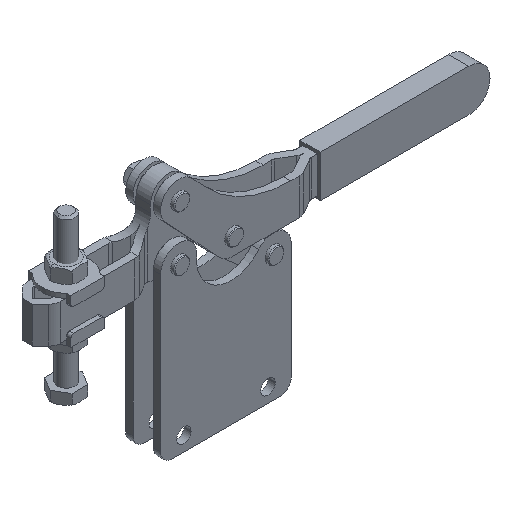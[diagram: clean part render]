
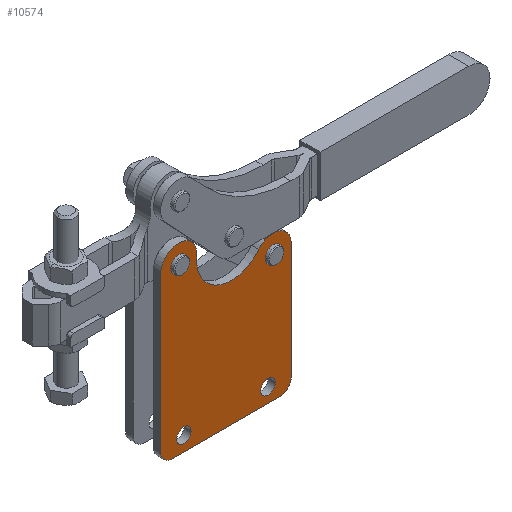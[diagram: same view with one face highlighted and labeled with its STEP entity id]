
A CAD part, isometric view. The second image highlights one B-rep face of the part: STEP entity #10574.
In plain terms, the highlighted planar face has unit normal (0, -1, 0).
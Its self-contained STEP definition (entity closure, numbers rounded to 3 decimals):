
#10467=CARTESIAN_POINT('Axis2P3D Location',(0.,-12.,0.)) ;
#10472=CARTESIAN_POINT('Axis2P3D Location',(101.865,-12.,56.03)) ;
#10476=CARTESIAN_POINT('Cartesian Point',(78.007,-12.,58.64)) ;
#10478=CARTESIAN_POINT('Cartesian Point',(120.747,-12.,41.216)) ;
#10481=CARTESIAN_POINT('Axis2P3D Location',(65.582,-12.,60.)) ;
#10485=CARTESIAN_POINT('Cartesian Point',(53.082,-12.,60.)) ;
#10488=CARTESIAN_POINT('Line Origine',(53.082,-12.,7.)) ;
#10492=CARTESIAN_POINT('Cartesian Point',(53.082,-12.,-46.)) ;
#10495=CARTESIAN_POINT('Axis2P3D Location',(61.082,-12.,-46.)) ;
#10499=CARTESIAN_POINT('Cartesian Point',(61.082,-12.,-54.)) ;
#10502=CARTESIAN_POINT('Line Origine',(98.082,-12.,-54.)) ;
#10506=CARTESIAN_POINT('Cartesian Point',(135.082,-12.,-54.)) ;
#10509=CARTESIAN_POINT('Axis2P3D Location',(135.082,-12.,-46.)) ;
#10513=CARTESIAN_POINT('Cartesian Point',(143.082,-12.,-46.)) ;
#10516=CARTESIAN_POINT('Line Origine',(143.082,-12.,-6.25)) ;
#10520=CARTESIAN_POINT('Cartesian Point',(143.082,-12.,33.5)) ;
#10523=CARTESIAN_POINT('Axis2P3D Location',(130.582,-12.,33.5)) ;
#10538=CARTESIAN_POINT('Axis2P3D Location',(127.082,-12.,-44.)) ;
#10542=CARTESIAN_POINT('Cartesian Point',(132.082,-12.,-44.)) ;
#10544=CARTESIAN_POINT('Cartesian Point',(122.082,-12.,-44.)) ;
#10547=CARTESIAN_POINT('Axis2P3D Location',(127.082,-12.,-44.)) ;
#10556=CARTESIAN_POINT('Axis2P3D Location',(69.082,-12.,-44.)) ;
#10560=CARTESIAN_POINT('Cartesian Point',(74.082,-12.,-44.)) ;
#10562=CARTESIAN_POINT('Cartesian Point',(64.082,-12.,-44.)) ;
#10565=CARTESIAN_POINT('Axis2P3D Location',(69.082,-12.,-44.)) ;
#10468=DIRECTION('Axis2P3D Direction',(0.,1.,0.)) ;
#10469=DIRECTION('Axis2P3D XDirection',(0.,0.,-1.)) ;
#10473=DIRECTION('Axis2P3D Direction',(0.,1.,0.)) ;
#10482=DIRECTION('Axis2P3D Direction',(0.,1.,0.)) ;
#10489=DIRECTION('Vector Direction',(0.,0.,1.)) ;
#10496=DIRECTION('Axis2P3D Direction',(0.,1.,0.)) ;
#10503=DIRECTION('Vector Direction',(1.,0.,0.)) ;
#10510=DIRECTION('Axis2P3D Direction',(0.,1.,0.)) ;
#10517=DIRECTION('Vector Direction',(0.,0.,1.)) ;
#10524=DIRECTION('Axis2P3D Direction',(0.,1.,0.)) ;
#10539=DIRECTION('Axis2P3D Direction',(0.,1.,0.)) ;
#10548=DIRECTION('Axis2P3D Direction',(0.,1.,0.)) ;
#10557=DIRECTION('Axis2P3D Direction',(0.,1.,0.)) ;
#10566=DIRECTION('Axis2P3D Direction',(0.,1.,0.)) ;
#10470=AXIS2_PLACEMENT_3D('Plane Axis2P3D',#10467,#10468,#10469) ;
#10474=AXIS2_PLACEMENT_3D('Circle Axis2P3D',#10472,#10473,$) ;
#10483=AXIS2_PLACEMENT_3D('Circle Axis2P3D',#10481,#10482,$) ;
#10497=AXIS2_PLACEMENT_3D('Circle Axis2P3D',#10495,#10496,$) ;
#10511=AXIS2_PLACEMENT_3D('Circle Axis2P3D',#10509,#10510,$) ;
#10525=AXIS2_PLACEMENT_3D('Circle Axis2P3D',#10523,#10524,$) ;
#10540=AXIS2_PLACEMENT_3D('Circle Axis2P3D',#10538,#10539,$) ;
#10549=AXIS2_PLACEMENT_3D('Circle Axis2P3D',#10547,#10548,$) ;
#10558=AXIS2_PLACEMENT_3D('Circle Axis2P3D',#10556,#10557,$) ;
#10567=AXIS2_PLACEMENT_3D('Circle Axis2P3D',#10565,#10566,$) ;
#10529=ORIENTED_EDGE('Oriented Edge',*,*,#10480,.F.) ;
#10530=ORIENTED_EDGE('Oriented Edge',*,*,#10487,.T.) ;
#10531=ORIENTED_EDGE('Oriented Edge',*,*,#10494,.F.) ;
#10532=ORIENTED_EDGE('Oriented Edge',*,*,#10501,.T.) ;
#10533=ORIENTED_EDGE('Oriented Edge',*,*,#10508,.T.) ;
#10534=ORIENTED_EDGE('Oriented Edge',*,*,#10515,.T.) ;
#10535=ORIENTED_EDGE('Oriented Edge',*,*,#10522,.T.) ;
#10536=ORIENTED_EDGE('Oriented Edge',*,*,#10527,.T.) ;
#10553=ORIENTED_EDGE('Oriented Edge',*,*,#10546,.F.) ;
#10554=ORIENTED_EDGE('Oriented Edge',*,*,#10551,.F.) ;
#10571=ORIENTED_EDGE('Oriented Edge',*,*,#10564,.F.) ;
#10572=ORIENTED_EDGE('Oriented Edge',*,*,#10569,.F.) ;
#10555=FACE_BOUND('Face Bound',#10552,.T.) ;
#10573=FACE_BOUND('Face Bound',#10570,.T.) ;
#10490=VECTOR('Line Direction',#10489,1.) ;
#10504=VECTOR('Line Direction',#10503,1.) ;
#10518=VECTOR('Line Direction',#10517,1.) ;
#10574=ADVANCED_FACE('',(#10537,#10555,#10573),#10471,.F.) ;
#10475=CIRCLE('generated circle',#10474,24.) ;
#10484=CIRCLE('generated circle',#10483,12.5) ;
#10498=CIRCLE('generated circle',#10497,8.) ;
#10512=CIRCLE('generated circle',#10511,8.) ;
#10526=CIRCLE('generated circle',#10525,12.5) ;
#10541=CIRCLE('generated circle',#10540,5.) ;
#10550=CIRCLE('generated circle',#10549,5.) ;
#10559=CIRCLE('generated circle',#10558,5.) ;
#10568=CIRCLE('generated circle',#10567,5.) ;
#10480=EDGE_CURVE('',#10477,#10479,#10475,.F.) ;
#10487=EDGE_CURVE('',#10477,#10486,#10484,.F.) ;
#10494=EDGE_CURVE('',#10493,#10486,#10491,.T.) ;
#10501=EDGE_CURVE('',#10493,#10500,#10498,.F.) ;
#10508=EDGE_CURVE('',#10500,#10507,#10505,.T.) ;
#10515=EDGE_CURVE('',#10507,#10514,#10512,.F.) ;
#10522=EDGE_CURVE('',#10514,#10521,#10519,.T.) ;
#10527=EDGE_CURVE('',#10521,#10479,#10526,.F.) ;
#10546=EDGE_CURVE('',#10543,#10545,#10541,.F.) ;
#10551=EDGE_CURVE('',#10545,#10543,#10550,.F.) ;
#10564=EDGE_CURVE('',#10561,#10563,#10559,.F.) ;
#10569=EDGE_CURVE('',#10563,#10561,#10568,.F.) ;
#10528=EDGE_LOOP('Oriented Loop',(#10529,#10530,#10531,#10532,#10533,#10534,#10535,#10536)) ;
#10552=EDGE_LOOP('Oriented Loop',(#10553,#10554)) ;
#10570=EDGE_LOOP('Oriented Loop',(#10571,#10572)) ;
#10537=FACE_OUTER_BOUND('Face Bound',#10528,.T.) ;
#10491=LINE('Line',#10488,#10490) ;
#10505=LINE('Line',#10502,#10504) ;
#10519=LINE('Line',#10516,#10518) ;
#10471=PLANE('Plane',#10470) ;
#10477=VERTEX_POINT('Vertex Point',#10476) ;
#10479=VERTEX_POINT('Vertex Point',#10478) ;
#10486=VERTEX_POINT('Vertex Point',#10485) ;
#10493=VERTEX_POINT('Vertex Point',#10492) ;
#10500=VERTEX_POINT('Vertex Point',#10499) ;
#10507=VERTEX_POINT('Vertex Point',#10506) ;
#10514=VERTEX_POINT('Vertex Point',#10513) ;
#10521=VERTEX_POINT('Vertex Point',#10520) ;
#10543=VERTEX_POINT('Vertex Point',#10542) ;
#10545=VERTEX_POINT('Vertex Point',#10544) ;
#10561=VERTEX_POINT('Vertex Point',#10560) ;
#10563=VERTEX_POINT('Vertex Point',#10562) ;
